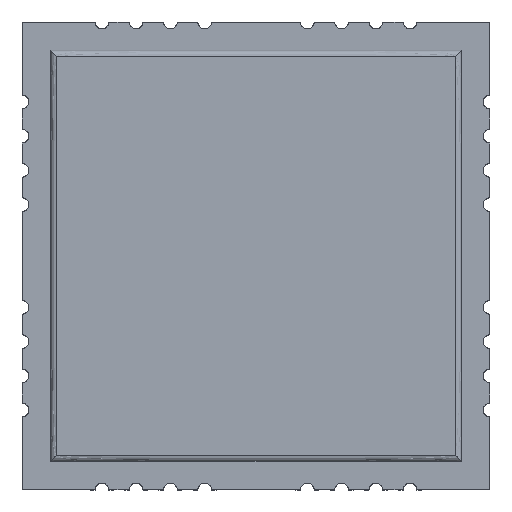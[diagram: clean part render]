
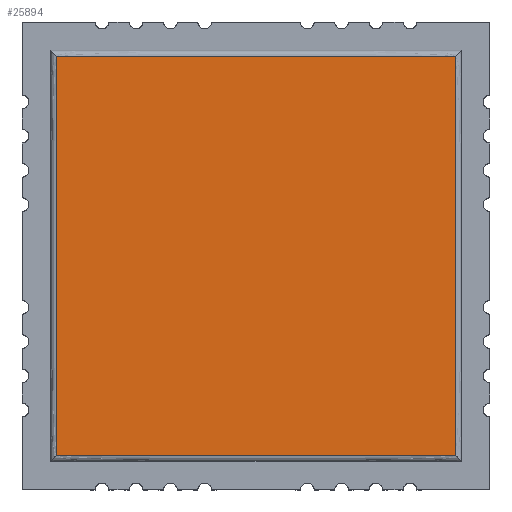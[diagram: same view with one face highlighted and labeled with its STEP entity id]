
A CAD part, top view. The second image highlights one B-rep face of the part: STEP entity #25894.
In plain terms, the highlighted planar face has unit normal (0, 0, 1).
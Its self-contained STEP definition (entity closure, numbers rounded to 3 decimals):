
#13547 = ( BOUNDED_SURFACE() B_SPLINE_SURFACE(2,2,(
    (#13548,#13549,#13550,#13551,#13552)
    ,(#13553,#13554,#13555,#13556,#13557)
    ,(#13558,#13559,#13560,#13561,#13562
)),.UNSPECIFIED.,.F.,.F.,.F.) B_SPLINE_SURFACE_WITH_KNOTS((3,3),(3,1,1,3
    ),(0.,18.),(-0.881,0.,18.,18.881),
.UNSPECIFIED.) GEOMETRIC_REPRESENTATION_ITEM() RATIONAL_B_SPLINE_SURFACE
((
    (1.,1.,1.,1.,1.)
    ,(0.707,0.707,0.707,0.707
      ,0.707)
,(1.,1.,1.,1.,1.))) REPRESENTATION_ITEM('') SURFACE() );
#13548 = CARTESIAN_POINT('',(1.25,0.369,3.048));
#13549 = CARTESIAN_POINT('',(1.25,0.809,3.048));
#13550 = CARTESIAN_POINT('',(1.25,10.25,3.048));
#13551 = CARTESIAN_POINT('',(1.25,19.691,3.048));
#13552 = CARTESIAN_POINT('',(1.25,20.131,3.048));
#13553 = CARTESIAN_POINT('',(1.25,0.369,3.302));
#13554 = CARTESIAN_POINT('',(1.25,0.809,3.302));
#13555 = CARTESIAN_POINT('',(1.25,10.25,3.302));
#13556 = CARTESIAN_POINT('',(1.25,19.691,3.302));
#13557 = CARTESIAN_POINT('',(1.25,20.131,3.302));
#13558 = CARTESIAN_POINT('',(1.504,0.369,3.302));
#13559 = CARTESIAN_POINT('',(1.504,0.809,3.302));
#13560 = CARTESIAN_POINT('',(1.504,10.25,3.302));
#13561 = CARTESIAN_POINT('',(1.504,19.691,3.302));
#13562 = CARTESIAN_POINT('',(1.504,20.131,3.302));
#13613 = ( BOUNDED_SURFACE() B_SPLINE_SURFACE(2,2,(
    (#13614,#13615,#13616,#13617,#13618)
    ,(#13619,#13620,#13621,#13622,#13623)
    ,(#13624,#13625,#13626,#13627,#13628
)),.UNSPECIFIED.,.F.,.F.,.F.) B_SPLINE_SURFACE_WITH_KNOTS((3,3),(3,1,1,3
    ),(0.,18.),(-0.881,0.,18.,18.881),
.UNSPECIFIED.) GEOMETRIC_REPRESENTATION_ITEM() RATIONAL_B_SPLINE_SURFACE
((
    (1.,1.,1.,1.,1.)
    ,(0.707,0.707,0.707,0.707
      ,0.707)
,(1.,1.,1.,1.,1.))) REPRESENTATION_ITEM('') SURFACE() );
#13614 = CARTESIAN_POINT('',(0.369,19.25,3.048));
#13615 = CARTESIAN_POINT('',(0.809,19.25,3.048));
#13616 = CARTESIAN_POINT('',(10.25,19.25,3.048));
#13617 = CARTESIAN_POINT('',(19.691,19.25,3.048));
#13618 = CARTESIAN_POINT('',(20.131,19.25,3.048));
#13619 = CARTESIAN_POINT('',(0.369,19.25,3.302));
#13620 = CARTESIAN_POINT('',(0.809,19.25,3.302));
#13621 = CARTESIAN_POINT('',(10.25,19.25,3.302));
#13622 = CARTESIAN_POINT('',(19.691,19.25,3.302));
#13623 = CARTESIAN_POINT('',(20.131,19.25,3.302));
#13624 = CARTESIAN_POINT('',(0.369,18.996,3.302));
#13625 = CARTESIAN_POINT('',(0.809,18.996,3.302));
#13626 = CARTESIAN_POINT('',(10.25,18.996,3.302));
#13627 = CARTESIAN_POINT('',(19.691,18.996,3.302));
#13628 = CARTESIAN_POINT('',(20.131,18.996,3.302));
#13679 = ( BOUNDED_SURFACE() B_SPLINE_SURFACE(2,2,(
    (#13680,#13681,#13682,#13683,#13684)
    ,(#13685,#13686,#13687,#13688,#13689)
    ,(#13690,#13691,#13692,#13693,#13694
)),.UNSPECIFIED.,.F.,.F.,.F.) B_SPLINE_SURFACE_WITH_KNOTS((3,3),(3,1,1,3
    ),(0.,18.),(-0.881,0.,18.,18.881),
.UNSPECIFIED.) GEOMETRIC_REPRESENTATION_ITEM() RATIONAL_B_SPLINE_SURFACE
((
    (1.,1.,1.,1.,1.)
    ,(0.707,0.707,0.707,0.707
      ,0.707)
,(1.,1.,1.,1.,1.))) REPRESENTATION_ITEM('') SURFACE() );
#13680 = CARTESIAN_POINT('',(19.25,20.131,3.048));
#13681 = CARTESIAN_POINT('',(19.25,19.691,3.048));
#13682 = CARTESIAN_POINT('',(19.25,10.25,3.048));
#13683 = CARTESIAN_POINT('',(19.25,0.809,3.048));
#13684 = CARTESIAN_POINT('',(19.25,0.369,3.048));
#13685 = CARTESIAN_POINT('',(19.25,20.131,3.302));
#13686 = CARTESIAN_POINT('',(19.25,19.691,3.302));
#13687 = CARTESIAN_POINT('',(19.25,10.25,3.302));
#13688 = CARTESIAN_POINT('',(19.25,0.809,3.302));
#13689 = CARTESIAN_POINT('',(19.25,0.369,3.302));
#13690 = CARTESIAN_POINT('',(18.996,20.131,3.302));
#13691 = CARTESIAN_POINT('',(18.996,19.691,3.302));
#13692 = CARTESIAN_POINT('',(18.996,10.25,3.302));
#13693 = CARTESIAN_POINT('',(18.996,0.809,3.302));
#13694 = CARTESIAN_POINT('',(18.996,0.369,3.302));
#13743 = ( BOUNDED_SURFACE() B_SPLINE_SURFACE(2,2,(
    (#13744,#13745,#13746,#13747,#13748)
    ,(#13749,#13750,#13751,#13752,#13753)
    ,(#13754,#13755,#13756,#13757,#13758
)),.UNSPECIFIED.,.F.,.F.,.F.) B_SPLINE_SURFACE_WITH_KNOTS((3,3),(3,1,1,3
    ),(0.,18.),(-0.881,0.,18.,18.881),
.UNSPECIFIED.) GEOMETRIC_REPRESENTATION_ITEM() RATIONAL_B_SPLINE_SURFACE
((
    (1.,1.,1.,1.,1.)
    ,(0.707,0.707,0.707,0.707
      ,0.707)
,(1.,1.,1.,1.,1.))) REPRESENTATION_ITEM('') SURFACE() );
#13744 = CARTESIAN_POINT('',(20.131,1.25,3.048));
#13745 = CARTESIAN_POINT('',(19.691,1.25,3.048));
#13746 = CARTESIAN_POINT('',(10.25,1.25,3.048));
#13747 = CARTESIAN_POINT('',(0.809,1.25,3.048));
#13748 = CARTESIAN_POINT('',(0.369,1.25,3.048));
#13749 = CARTESIAN_POINT('',(20.131,1.25,3.302));
#13750 = CARTESIAN_POINT('',(19.691,1.25,3.302));
#13751 = CARTESIAN_POINT('',(10.25,1.25,3.302));
#13752 = CARTESIAN_POINT('',(0.809,1.25,3.302));
#13753 = CARTESIAN_POINT('',(0.369,1.25,3.302));
#13754 = CARTESIAN_POINT('',(20.131,1.504,3.302));
#13755 = CARTESIAN_POINT('',(19.691,1.504,3.302));
#13756 = CARTESIAN_POINT('',(10.25,1.504,3.302));
#13757 = CARTESIAN_POINT('',(0.809,1.504,3.302));
#13758 = CARTESIAN_POINT('',(0.369,1.504,3.302));
#25131 = VERTEX_POINT('',#25132);
#25132 = CARTESIAN_POINT('',(1.504,1.504,3.302));
#25213 = EDGE_CURVE('',#25131,#25214,#25216,.T.);
#25214 = VERTEX_POINT('',#25215);
#25215 = CARTESIAN_POINT('',(1.504,18.996,3.302));
#25216 = SURFACE_CURVE('',#25217,(#25223,#25230),.PCURVE_S1.);
#25217 = B_SPLINE_CURVE_WITH_KNOTS('',2,(#25218,#25219,#25220,#25221,
    #25222),.UNSPECIFIED.,.F.,.F.,(3,1,1,3),(-0.881,
    0.,18.,18.881),.UNSPECIFIED.);
#25218 = CARTESIAN_POINT('',(1.504,0.369,3.302));
#25219 = CARTESIAN_POINT('',(1.504,0.809,3.302));
#25220 = CARTESIAN_POINT('',(1.504,10.25,3.302));
#25221 = CARTESIAN_POINT('',(1.504,19.691,3.302));
#25222 = CARTESIAN_POINT('',(1.504,20.131,3.302));
#25223 = PCURVE('',#13547,#25224);
#25224 = DEFINITIONAL_REPRESENTATION('',(#25225),#25229);
#25225 = LINE('',#25226,#25227);
#25226 = CARTESIAN_POINT('',(18.,0.));
#25227 = VECTOR('',#25228,1.);
#25228 = DIRECTION('',(0.,1.));
#25229 = ( GEOMETRIC_REPRESENTATION_CONTEXT(2) 
PARAMETRIC_REPRESENTATION_CONTEXT() REPRESENTATION_CONTEXT('2D SPACE',''
  ) );
#25230 = PCURVE('',#25231,#25236);
#25231 = PLANE('',#25232);
#25232 = AXIS2_PLACEMENT_3D('',#25233,#25234,#25235);
#25233 = CARTESIAN_POINT('',(10.25,10.25,3.302));
#25234 = DIRECTION('',(0.,0.,-1.));
#25235 = DIRECTION('',(-1.,0.,0.));
#25236 = DEFINITIONAL_REPRESENTATION('',(#25237),#25240);
#25237 = B_SPLINE_CURVE_WITH_KNOTS('',1,(#25238,#25239),.UNSPECIFIED.,
  .F.,.F.,(2,2),(0.,18.),.PIECEWISE_BEZIER_KNOTS.);
#25238 = CARTESIAN_POINT('',(8.746,-9.));
#25239 = CARTESIAN_POINT('',(8.746,9.));
#25240 = ( GEOMETRIC_REPRESENTATION_CONTEXT(2) 
PARAMETRIC_REPRESENTATION_CONTEXT() REPRESENTATION_CONTEXT('2D SPACE',''
  ) );
#25328 = EDGE_CURVE('',#25214,#25329,#25331,.T.);
#25329 = VERTEX_POINT('',#25330);
#25330 = CARTESIAN_POINT('',(18.996,18.996,3.302));
#25331 = SURFACE_CURVE('',#25332,(#25338,#25345),.PCURVE_S1.);
#25332 = B_SPLINE_CURVE_WITH_KNOTS('',2,(#25333,#25334,#25335,#25336,
    #25337),.UNSPECIFIED.,.F.,.F.,(3,1,1,3),(-0.881,
    0.,18.,18.881),.UNSPECIFIED.);
#25333 = CARTESIAN_POINT('',(0.369,18.996,3.302));
#25334 = CARTESIAN_POINT('',(0.809,18.996,3.302));
#25335 = CARTESIAN_POINT('',(10.25,18.996,3.302));
#25336 = CARTESIAN_POINT('',(19.691,18.996,3.302));
#25337 = CARTESIAN_POINT('',(20.131,18.996,3.302));
#25338 = PCURVE('',#13613,#25339);
#25339 = DEFINITIONAL_REPRESENTATION('',(#25340),#25344);
#25340 = LINE('',#25341,#25342);
#25341 = CARTESIAN_POINT('',(18.,0.));
#25342 = VECTOR('',#25343,1.);
#25343 = DIRECTION('',(0.,1.));
#25344 = ( GEOMETRIC_REPRESENTATION_CONTEXT(2) 
PARAMETRIC_REPRESENTATION_CONTEXT() REPRESENTATION_CONTEXT('2D SPACE',''
  ) );
#25345 = PCURVE('',#25231,#25346);
#25346 = DEFINITIONAL_REPRESENTATION('',(#25347),#25350);
#25347 = B_SPLINE_CURVE_WITH_KNOTS('',1,(#25348,#25349),.UNSPECIFIED.,
  .F.,.F.,(2,2),(0.,18.),.PIECEWISE_BEZIER_KNOTS.);
#25348 = CARTESIAN_POINT('',(9.,8.746));
#25349 = CARTESIAN_POINT('',(-9.,8.746));
#25350 = ( GEOMETRIC_REPRESENTATION_CONTEXT(2) 
PARAMETRIC_REPRESENTATION_CONTEXT() REPRESENTATION_CONTEXT('2D SPACE',''
  ) );
#25438 = EDGE_CURVE('',#25329,#25439,#25441,.T.);
#25439 = VERTEX_POINT('',#25440);
#25440 = CARTESIAN_POINT('',(18.996,1.504,3.302));
#25441 = SURFACE_CURVE('',#25442,(#25448,#25455),.PCURVE_S1.);
#25442 = B_SPLINE_CURVE_WITH_KNOTS('',2,(#25443,#25444,#25445,#25446,
    #25447),.UNSPECIFIED.,.F.,.F.,(3,1,1,3),(-0.881,
    0.,18.,18.881),.UNSPECIFIED.);
#25443 = CARTESIAN_POINT('',(18.996,20.131,3.302));
#25444 = CARTESIAN_POINT('',(18.996,19.691,3.302));
#25445 = CARTESIAN_POINT('',(18.996,10.25,3.302));
#25446 = CARTESIAN_POINT('',(18.996,0.809,3.302));
#25447 = CARTESIAN_POINT('',(18.996,0.369,3.302));
#25448 = PCURVE('',#13679,#25449);
#25449 = DEFINITIONAL_REPRESENTATION('',(#25450),#25454);
#25450 = LINE('',#25451,#25452);
#25451 = CARTESIAN_POINT('',(18.,0.));
#25452 = VECTOR('',#25453,1.);
#25453 = DIRECTION('',(0.,1.));
#25454 = ( GEOMETRIC_REPRESENTATION_CONTEXT(2) 
PARAMETRIC_REPRESENTATION_CONTEXT() REPRESENTATION_CONTEXT('2D SPACE',''
  ) );
#25455 = PCURVE('',#25231,#25456);
#25456 = DEFINITIONAL_REPRESENTATION('',(#25457),#25460);
#25457 = B_SPLINE_CURVE_WITH_KNOTS('',1,(#25458,#25459),.UNSPECIFIED.,
  .F.,.F.,(2,2),(0.,18.),.PIECEWISE_BEZIER_KNOTS.);
#25458 = CARTESIAN_POINT('',(-8.746,9.));
#25459 = CARTESIAN_POINT('',(-8.746,-9.));
#25460 = ( GEOMETRIC_REPRESENTATION_CONTEXT(2) 
PARAMETRIC_REPRESENTATION_CONTEXT() REPRESENTATION_CONTEXT('2D SPACE',''
  ) );
#25548 = EDGE_CURVE('',#25439,#25131,#25549,.T.);
#25549 = SURFACE_CURVE('',#25550,(#25556,#25563),.PCURVE_S1.);
#25550 = B_SPLINE_CURVE_WITH_KNOTS('',2,(#25551,#25552,#25553,#25554,
    #25555),.UNSPECIFIED.,.F.,.F.,(3,1,1,3),(-0.881,
    0.,18.,18.881),.UNSPECIFIED.);
#25551 = CARTESIAN_POINT('',(20.131,1.504,3.302));
#25552 = CARTESIAN_POINT('',(19.691,1.504,3.302));
#25553 = CARTESIAN_POINT('',(10.25,1.504,3.302));
#25554 = CARTESIAN_POINT('',(0.809,1.504,3.302));
#25555 = CARTESIAN_POINT('',(0.369,1.504,3.302));
#25556 = PCURVE('',#13743,#25557);
#25557 = DEFINITIONAL_REPRESENTATION('',(#25558),#25562);
#25558 = LINE('',#25559,#25560);
#25559 = CARTESIAN_POINT('',(18.,0.));
#25560 = VECTOR('',#25561,1.);
#25561 = DIRECTION('',(0.,1.));
#25562 = ( GEOMETRIC_REPRESENTATION_CONTEXT(2) 
PARAMETRIC_REPRESENTATION_CONTEXT() REPRESENTATION_CONTEXT('2D SPACE',''
  ) );
#25563 = PCURVE('',#25231,#25564);
#25564 = DEFINITIONAL_REPRESENTATION('',(#25565),#25568);
#25565 = B_SPLINE_CURVE_WITH_KNOTS('',1,(#25566,#25567),.UNSPECIFIED.,
  .F.,.F.,(2,2),(0.,18.),.PIECEWISE_BEZIER_KNOTS.);
#25566 = CARTESIAN_POINT('',(-9.,-8.746));
#25567 = CARTESIAN_POINT('',(9.,-8.746));
#25568 = ( GEOMETRIC_REPRESENTATION_CONTEXT(2) 
PARAMETRIC_REPRESENTATION_CONTEXT() REPRESENTATION_CONTEXT('2D SPACE',''
  ) );
#25894 = ADVANCED_FACE('',(#25895),#25231,.F.);
#25895 = FACE_BOUND('',#25896,.F.);
#25896 = EDGE_LOOP('',(#25897,#25898,#25899,#25900));
#25897 = ORIENTED_EDGE('',*,*,#25213,.T.);
#25898 = ORIENTED_EDGE('',*,*,#25328,.T.);
#25899 = ORIENTED_EDGE('',*,*,#25438,.T.);
#25900 = ORIENTED_EDGE('',*,*,#25548,.T.);
